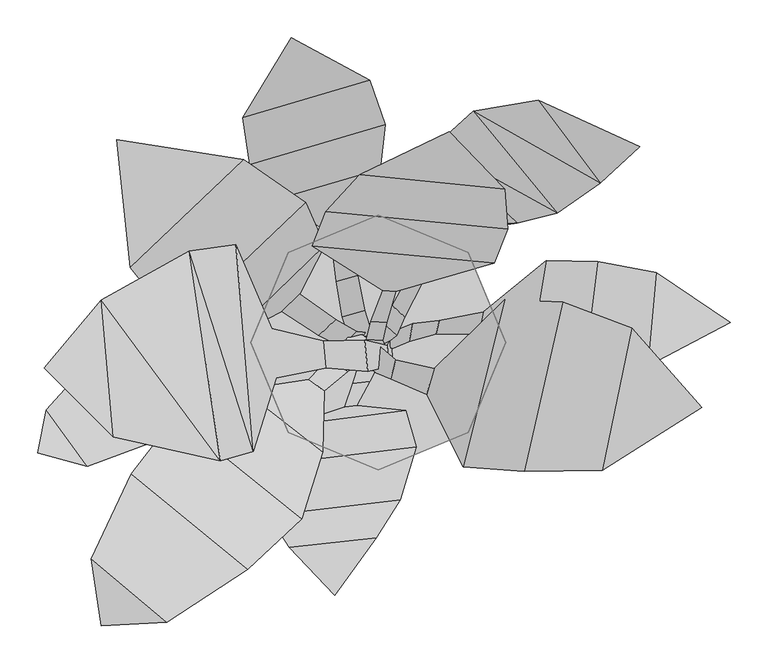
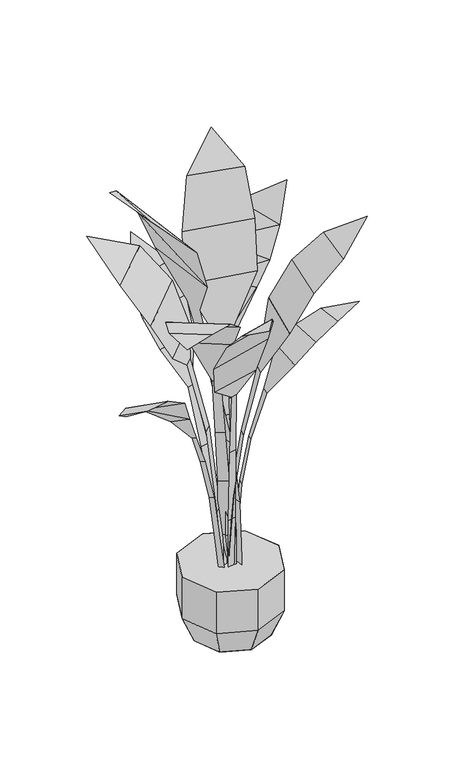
"""IFC4 building model written with IfcOpenShell, lengths in millimetres: geographic element geometry, Enscape AssetDefinition - Potted Plant 119 Strelitzia Nicolai : Enscape AssetDefinition - Potted Plant 119 Strelitzia Nicolai."""

from ifc_helpers import new_model, si_unit, origin, place, context, project, spatial, triangles, source, transform, mapped, element, save


def geographic_element_e5fee6ec(model_context):
    return source(origin(), model_context, "Body", "Tessellation", [
        triangles([(-42.6447489, -4.8137812, 220.5870807), (-450.9313783, -146.4233208, 1030.8772654), (-6.4965097, 12.4264569, 223.9634916), (-346.625136, 268.7936949, 1408.6872711), (-18.873094, -8.4375823, 226.89905), (-115.602564, 403.5047673, 1263.8279446), (6.8336536, -3.8731684, 226.7603957), (345.8002227, 258.9736366, 1381.69575), (3.9739129, -6.3069903, 224.1939099), (465.8105936, 26.3640794, 1031.4687263), (-19.9683147, -20.8201522, 219.740221), (-57.699535, -334.79221, 1322.593689), (-5.1289804, -8.3488079, 235.6159053), (-367.1170901, -375.3950732, 1386.8207279), (17.226273, 5.3294718, 221.0628692), (-442.466815, -34.3089115, 1787.5674877), (8.3328478, -21.8375683, 210.5206166), (93.892661, 278.9629143, 1651.697438), (-8.5762304, -0.0369063, 217.1039176), (428.1691412, -86.4944479, 1427.1784389), (89.7651422, -89.7651422, 0.0), (126.9477563, 0.0, 0.0), (0.0, -126.9477563, 0.0), (119.2931818, -119.2931818, 249.0428474), (0.0, -168.7067626, 96.4292249), (168.7067626, 0.0, 249.0428474), (119.2931818, -119.2931818, 96.4292249), (0.0, 168.7067626, 249.0428474), (0.0, -168.7067626, 249.0428474), (119.2931818, 119.2931818, 249.0428474), (168.7067626, 0.0, 96.4292249), (119.2931818, 119.2931818, 96.4292249), (0.0, 168.7067626, 96.4292249), (89.7651422, 89.7651422, 0.0), (0.0, 126.9477563, 0.0), (-119.2931818, 119.2931818, 249.0428474), (-168.7067626, 0.0, 249.0428474), (-89.7651422, 89.7651422, 0.0), (-126.9477563, 0.0, 0.0), (-119.2931818, 119.2931818, 96.4292249), (-89.7651422, -89.7651422, 0.0), (-119.2931818, -119.2931818, 96.4292249), (-168.7067626, 0.0, 96.4292249), (-119.2931818, -119.2931818, 249.0428474), (296.1911505, -169.4838046, 1364.4116306), (335.3886489, 18.7154933, 1337.932869), (244.2569658, 53.4383534, 1245.9364494), (193.2624222, -170.7874859, 1273.5423225), (167.2484759, 56.8227671, 1131.5775867), (112.1902178, -165.2684732, 1152.2122284), (73.8036574, -34.5423184, 964.7959791), (23.3008534, -23.5522166, 738.5204012), (64.1022828, -69.1953585, 965.3436201), (-0.7570783, -2.7869256, 519.0025503), (-10.8085642, -37.1008263, 517.3667127), (16.1121025, -48.3602431, 737.8998722), (-20.4640557, -29.2756885, 311.2798734), (-5.7743426, 20.4600634, 315.7016238), (-24.5446978, 222.1540998, 1548.0274578), (167.5965833, 202.9957126, 1528.7912773), (171.3201206, 150.1349039, 1365.9169167), (-69.4387394, 173.4108178, 1387.7413113), (-87.4839315, 127.5612, 1224.8628811), (153.639005, 105.2109381, 1206.3347969), (5.8900492, 68.7345264, 1007.7969154), (23.1103376, 67.2183716, 1006.8074409), (-10.1791616, 28.00591, 773.2442265), (11.0659102, 26.2334096, 772.5758806), (-16.3634623, 4.0636844, 570.8589417), (5.6696082, 2.2911842, 570.7193064), (-23.1053507, -10.325788, 359.1463557), (-12.5661014, -20.2097017, 209.8652787), (12.5092462, -13.1306699, 359.7348736), (-350.8863221, -125.6141531, 1706.0534225), (-367.1390365, 55.8981097, 1713.8157394), (-209.4054594, -157.1141745, 1559.2649986), (-165.3622539, -144.4503217, 1408.121608), (-250.1869454, 120.9729212, 1547.6245754), (-134.9055646, -47.2141557, 1254.4148563), (-189.0351548, 129.8244612, 1397.5905647), (-68.9400053, -33.68749, 971.8221491), (-72.3702964, 2.1964247, 970.7847851), (-141.100835, 18.652653, 1252.1524944), (-14.2817466, -38.3785804, 708.4995592), (-18.3324645, 3.4113408, 707.5739616), (14.2069374, -32.0685981, 481.5197365), (21.1084181, -33.4490938, 219.9876078), (11.4449489, -4.2003378, 481.3750869), (-280.2905404, -370.6711246, 1409.5949192), (-379.8159153, -286.7591136, 1399.4735893), (-327.2543344, -174.3564178, 1353.9811626), (-173.0158201, -300.9221299, 1368.5481514), (-101.2719344, -233.5840708, 1292.5799686), (-73.7577753, -145.2453132, 1164.3514584), (-179.8504683, -62.2599624, 1158.2659286), (-268.7448243, -98.6445966, 1278.4099033), (-71.8566014, -64.6329371, 980.2477249), (-40.6986877, -38.2658647, 761.4352089), (-91.9426165, -49.0734354, 979.4208858), (-64.3187394, -20.0082128, 760.6213051), (-17.9903343, -22.7502511, 565.4137799), (10.6868727, -14.2827458, 350.6100308), (-32.5932663, 19.096527, 349.7591743), (-45.8107121, -1.2109262, 564.2477174), (-2.81286, -259.051448, 1302.9037571), (-117.8229136, -271.8110434, 1286.7996529), (28.682195, -208.7072099, 1252.7300755), (-145.3151399, -228.9807725, 1229.4990807), (49.8574446, -138.7607617, 1136.8831495), (36.5562057, -90.2170042, 998.341824), (-151.8186311, -162.7219535, 1110.7724613), (-28.8776977, -83.4960572, 925.1975241), (-118.8602867, -110.0526484, 982.0072832), (-44.7763412, -85.5767714, 923.7531355), (-11.5506803, -51.60102, 697.9214258), (-34.0246333, -54.6043932, 696.3503735), (1.6897109, -25.8025039, 426.9342602), (-25.7586158, -29.5569736, 425.9747257), (0.7261567, -17.9653971, 219.8738793), (368.0337856, 92.2348679, 1000.7069412), (356.427263, -30.9334816, 1030.1760727), (290.6442507, 107.0293228, 958.6505693), (271.5447261, -46.5418584, 993.1121286), (222.2917368, 108.5624233, 906.212709), (195.8319057, -50.497817, 936.7492172), (138.9632566, 40.5041865, 813.7683517), (132.8747111, 10.4165585, 817.9936752), (80.6981629, 28.8108663, 665.8728006), (45.8067244, 24.864884, 517.2719873), (76.8998029, 11.3102903, 667.6682579), (40.6119106, 1.0084403, 519.6449893), (24.2225131, 16.3145883, 350.1192541), (9.2096225, 16.7434979, 223.7460448), (18.7962875, -7.8510708, 351.1436465), (211.6018733, 320.9732861, 1315.6173706), (125.8904444, 306.5797606, 1207.4978073), (293.6845084, 211.10214, 1262.6379009), (236.5485519, 171.4068885, 1178.2611471), (75.612068, 260.8548444, 1110.6586601), (84.4147239, 157.4024563, 969.2028322), (183.8263885, 158.0807216, 1102.5931641), (42.2278095, 92.1999591, 782.1925175), (57.7474154, 78.4608358, 783.8662525), (98.1897552, 144.5650495, 969.6037525), (18.4890661, 48.7352929, 598.2793611), (3.6696851, 28.0926893, 387.4265699), (35.0420517, 33.8610441, 599.4444062), (-10.6489696, 12.1042746, 227.0686073), (24.4319821, 9.1757083, 387.3966299), (-179.6160713, 297.6315059, 1160.3905083), (-11.3751255, 347.1757565, 1155.5897112), (-170.3475964, 235.5480861, 1062.0131556), (9.3003918, 288.4398431, 1056.8713182), (-137.5508428, 188.5902874, 966.079767), (2.1615133, 229.6660323, 961.9811073), (-63.4180222, 144.9809852, 827.6980247), (-55.9888836, 80.5196128, 642.8911366), (-44.320496, 150.5697974, 827.0825827), (-47.7587718, 33.7024509, 475.7224159), (-18.3603948, 42.3465113, 474.9244632), (-27.1600587, 88.9532005, 641.9564552), (-37.5097835, 1.9580298, 307.3438491), (-8.2191369, 10.6968466, 307.1882263), (-328.6787024, 99.3079191, 1322.0860165), (-178.0809543, 242.0436198, 1331.4133541), (-266.6152123, 22.2854311, 1198.1695976), (-70.8192283, 128.1167984, 1076.5542738), (-96.460146, 185.1370461, 1210.1961164), (-128.043983, 40.7365987, 994.595323), (-103.8483941, 64.0155012, 996.4944803), (-199.6561998, 4.0966011, 1066.3083876), (-78.7351378, 9.4160989, 749.5543207), (-56.7629097, 30.3898579, 750.7443644), (-49.1961205, -5.2975526, 451.3313539), (-28.6273315, 14.3366079, 452.4724543), (-32.7059774, -12.6269489, 222.1640556), (-385.7218775, -164.401702, 1039.2429611), (-292.8386662, -130.0997623, 1022.5883818), (-378.4164368, -21.3597813, 960.6255941), (-439.8993482, -89.4519346, 995.7833319), (-221.6014991, -107.0133626, 977.131636), (-312.3222153, -0.4987341, 918.7269161), (-175.4905419, -57.8351962, 870.7506294), (-134.211321, -24.559661, 767.375108), (-216.8894321, -13.6184309, 848.8512394), (-99.2680233, -19.3578641, 664.3356852), (-143.5935063, -15.5585059, 764.0625195), (-110.4616078, -9.0839415, 661.709392), (-65.7191808, -16.514081, 516.8899249), (-78.207481, -5.2367074, 514.8211558), (-46.0820255, -16.3145883, 349.3332556), (-57.3244897, -6.2371676, 348.0824598), (-27.9939399, -18.0013052, 222.7116785)], [[193, 1, 192], [191, 193, 192], [191, 192, 190], [189, 191, 190], [189, 190, 188], [186, 189, 188], [186, 188, 187], [184, 186, 187], [184, 187, 185], [183, 184, 185], [183, 185, 182], [181, 183, 182], [181, 182, 179], [178, 181, 179], [178, 179, 180], [177, 178, 180], [177, 180, 2], [176, 3, 175], [174, 176, 175], [174, 175, 173], [172, 174, 173], [172, 173, 170], [169, 172, 170], [170, 167, 171], [171, 169, 170], [171, 167, 168], [166, 171, 168], [166, 168, 165], [164, 166, 165], [164, 165, 4], [162, 5, 163], [162, 163, 160], [159, 162, 160], [159, 160, 161], [157, 159, 161], [157, 161, 158], [156, 157, 158], [156, 158, 155], [154, 156, 155], [154, 155, 153], [152, 154, 153], [152, 153, 151], [150, 152, 151], [150, 151, 6], [148, 7, 149], [146, 148, 149], [146, 149, 147], [145, 146, 147], [145, 147, 143], [142, 145, 143], [142, 143, 144], [140, 142, 144], [140, 144, 141], [139, 140, 141], [139, 141, 138], [136, 139, 138], [136, 138, 137], [135, 136, 137], [135, 137, 8], [133, 9, 134], [132, 133, 134], [132, 134, 131], [129, 132, 131], [129, 131, 130], [128, 129, 130], [128, 130, 127], [126, 128, 127], [126, 127, 125], [124, 126, 125], [124, 125, 123], [122, 124, 123], [122, 123, 121], [120, 122, 121], [120, 121, 10], [119, 11, 118], [117, 119, 118], [117, 118, 116], [115, 117, 116], [115, 116, 114], [112, 115, 114], [114, 113, 110], [110, 112, 114], [110, 113, 111], [109, 110, 111], [109, 111, 108], [107, 109, 108], [108, 106, 105], [105, 107, 108], [105, 106, 12], [102, 13, 103], [102, 103, 104], [101, 102, 104], [101, 104, 100], [98, 101, 100], [98, 100, 99], [97, 98, 99], [97, 99, 95], [94, 97, 95], [94, 95, 96], [93, 94, 96], [93, 96, 91], [92, 93, 91], [92, 91, 90], [89, 92, 90], [89, 90, 14], [87, 15, 88], [86, 87, 88], [86, 88, 85], [84, 86, 85], [84, 85, 82], [81, 84, 82], [81, 82, 83], [79, 81, 83], [79, 83, 80], [77, 79, 80], [77, 80, 78], [76, 77, 78], [76, 78, 75], [74, 76, 75], [74, 75, 16], [72, 17, 73], [71, 72, 73], [71, 73, 70], [69, 71, 70], [69, 70, 68], [67, 69, 68], [67, 68, 66], [65, 67, 66], [65, 66, 64], [63, 65, 64], [63, 64, 61], [62, 63, 61], [62, 61, 60], [59, 62, 60], [59, 60, 18], [58, 19, 57], [58, 57, 55], [54, 58, 55], [54, 55, 56], [52, 54, 56], [52, 56, 53], [51, 52, 53], [51, 53, 50], [49, 51, 50], [49, 50, 48], [47, 49, 48], [47, 48, 45], [46, 47, 45], [46, 45, 20], [44, 37, 43], [41, 42, 43], [42, 44, 43], [39, 41, 43], [39, 43, 40], [43, 37, 40], [38, 39, 40], [37, 36, 40], [38, 40, 33], [40, 36, 33], [39, 38, 35], [35, 38, 33], [39, 35, 22], [35, 34, 22], [35, 33, 32], [34, 35, 32], [36, 28, 33], [28, 36, 37], [33, 28, 32], [28, 30, 32], [34, 32, 31], [32, 30, 31], [22, 34, 31], [30, 26, 31], [26, 30, 28], [29, 44, 42], [26, 28, 29], [28, 37, 29], [37, 44, 29], [24, 26, 29], [26, 24, 27], [22, 31, 27], [31, 26, 27], [24, 29, 25], [27, 24, 25], [25, 29, 42], [23, 25, 42], [23, 39, 22], [23, 41, 39], [41, 23, 42], [21, 27, 25], [21, 22, 27], [23, 21, 25], [21, 23, 22]], closed=False),
    ])


if __name__ == "__main__":
    model = new_model("IFC4")
    model_context = context("Model", 3, world=origin())
    ifc_project = project(units=[si_unit("LENGTHUNIT", "METRE", prefix="MILLI")], contexts=[model_context])
    site = spatial("IfcSite", under=ifc_project)
    building = spatial("IfcBuilding", under=site)
    placement = place(None, origin())
    geographic_element_shape = geographic_element_e5fee6ec(model_context)
    element("IfcGeographicElement", 1, ObjectType="Enscape AssetDefinition - Potted Plant 119 Strelitzia Nicolai : Enscape AssetDefinition - Potted Plant 119 Strelitzia Nicolai", at=placement, inside=building, context=model_context, shape_type="MappedRepresentation", body=[
        mapped(geographic_element_shape, transform((0.0, 0.0, 0.0), x_axis=(1.0, 0.0, 0.0), y_axis=(0.0, 1.0, 0.0), z_axis=(0.0, 0.0, 1.0))),
    ])
    save(model, "model.ifc")
